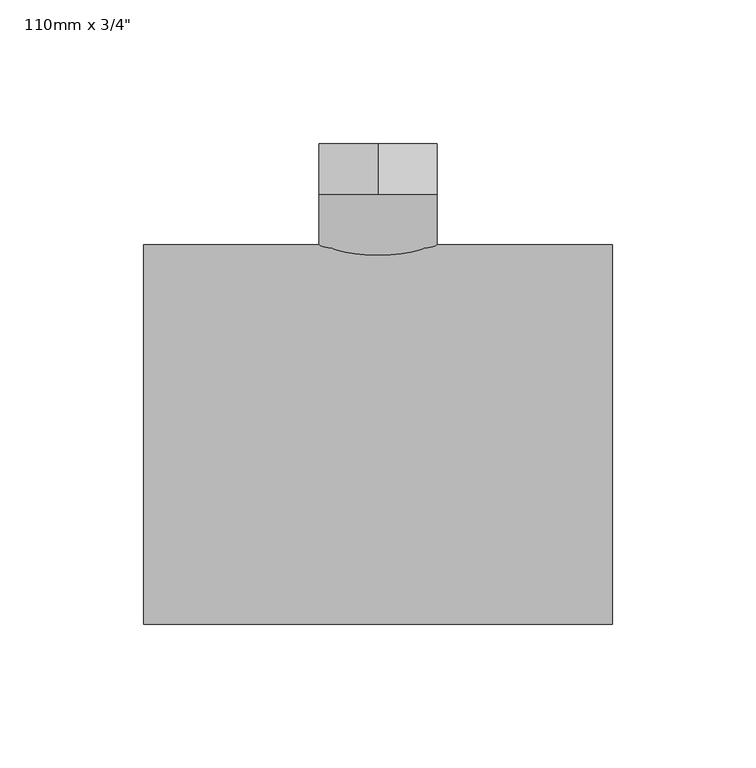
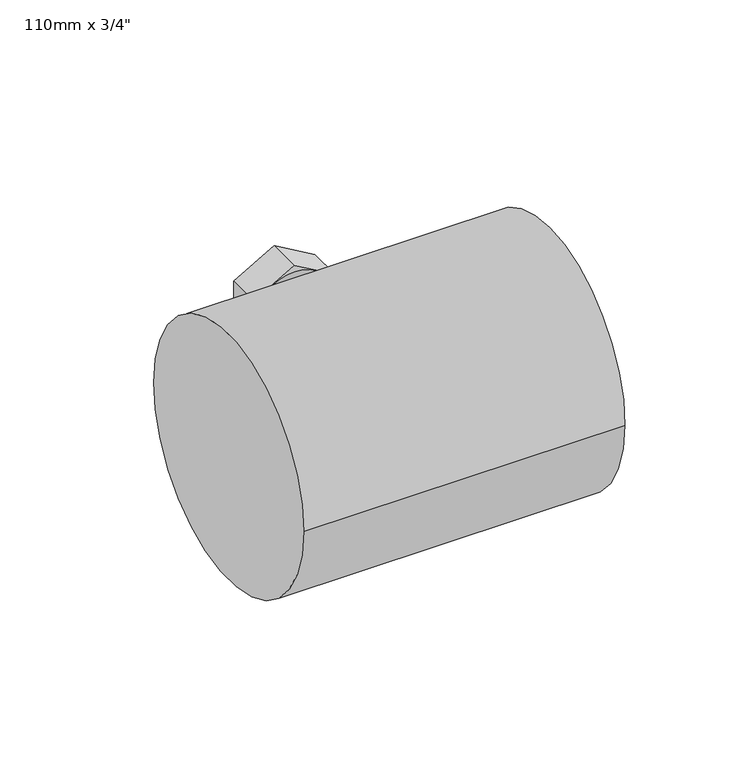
"""IFC4 building model written with IfcOpenShell, lengths in millimetres: pipe fitting geometry."""

import ifcopenshell
import ifcopenshell.guid

model = None  # the IFC model being written
_history = None  # IfcOwnerHistory: only IFC2X3 demands one
_inside = {}  # id of a spatial element -> (the spatial element, [elements in it])
_under = {}  # id of a project, library or spatial element -> (it, [spatial elements below it])
_declared = {}  # id of a project -> (the project, [libraries it declares])
_typed = {}  # id of a type object -> (the type object, [elements of that type])
_made_of = {}  # id of a material, layer set ... -> (it, [elements and type objects made of it])


def new_model(schema):
    """Start an empty IFC model of exactly this schema.

    Asked for "IFC4X3", IfcOpenShell would pick the latest addendum, in which some entities
    have other attributes; the version numbers below select the first issue.
    IFC2X3 requires an IfcOwnerHistory on every rooted entity: one is made here for all.
    """
    global model, _history
    if schema == "IFC4X3":
        model = ifcopenshell.file(schema_version=(4, 3, 0, 0))
    else:
        model = ifcopenshell.file(schema=schema)
    _inside.clear()
    _under.clear()
    _declared.clear()
    _typed.clear()
    _made_of.clear()
    _history = None
    if model.schema == "IFC2X3":
        org = make("IfcOrganization", Name="unknown")
        user = make(
            "IfcPersonAndOrganization",
            ThePerson=make("IfcPerson", FamilyName="unknown"),
            TheOrganization=org,
        )
        app = make(
            "IfcApplication",
            ApplicationDeveloper=org,
            Version="unknown",
            ApplicationFullName="unknown",
            ApplicationIdentifier="unknown",
        )
        _history = make(
            "IfcOwnerHistory",
            OwningUser=user,
            OwningApplication=app,
            ChangeAction="ADDED",
            CreationDate=0,
        )
    return model


def make(cls, **values):
    """One entity of the class cls with the attributes given. An attribute that is None is left unset."""
    return model.create_entity(
        cls, **{name: value for name, value in values.items() if value is not None}
    )


def rooted(cls, **values):
    """An entity with a GlobalId (a new one), such as an element, a storey or a relation."""
    return make(cls, GlobalId=ifcopenshell.guid.new(), OwnerHistory=_history, **values)


def si_unit(unit_type, name, prefix=None):
    """IfcSIUnit, for example si_unit("LENGTHUNIT", "METRE", prefix="MILLI")."""
    return make("IfcSIUnit", UnitType=unit_type, Prefix=prefix, Name=name)


def assignment(units):
    """IfcUnitAssignment: the units of a project."""
    return None if units is None else make("IfcUnitAssignment", Units=units)


def point(xyz):
    """IfcCartesianPoint."""
    return None if xyz is None else make("IfcCartesianPoint", Coordinates=xyz)


def direction(xyz):
    """IfcDirection."""
    return None if xyz is None else make("IfcDirection", DirectionRatios=xyz)


def frame(location, z_axis=None, x_axis=None):
    """IfcAxis2Placement3D, a coordinate frame: its origin and axes. An axis left out is left unset."""
    return make(
        "IfcAxis2Placement3D",
        Location=point(location),
        Axis=direction(z_axis),
        RefDirection=direction(x_axis),
    )


def frame_2d(location, x_axis=None):
    """IfcAxis2Placement2D, a coordinate frame in the plane: its origin and x axis."""
    return make(
        "IfcAxis2Placement2D", Location=point(location), RefDirection=direction(x_axis)
    )


def origin():
    """The frame at (0, 0, 0) with its axes left unset."""
    return frame((0.0, 0.0, 0.0))


def origin_2d():
    """The frame at (0, 0) in the plane with its x axis left unset."""
    return frame_2d((0.0, 0.0))


def place(relative_to, where):
    """IfcLocalPlacement: puts the frame where relative to a parent placement (None: the world)."""
    return make(
        "IfcLocalPlacement", PlacementRelTo=relative_to, RelativePlacement=where
    )


def context(
    kind, dimensions, precision=None, world=None, true_north=None, identifier=None
):
    """IfcGeometricRepresentationContext, for example the 3D "Model" context."""
    return make(
        "IfcGeometricRepresentationContext",
        ContextIdentifier=identifier,
        ContextType=kind,
        CoordinateSpaceDimension=dimensions,
        Precision=precision,
        WorldCoordinateSystem=world,
        TrueNorth=true_north,
    )


def project(units=None, contexts=None):
    """IfcProject with its units and contexts."""
    return rooted(
        "IfcProject",
        Name="project",
        RepresentationContexts=contexts,
        UnitsInContext=assignment(units),
    )


def spatial(cls, under=None, at=None, **own):
    """A site, building, storey or space (cls), placed at a placement, below another one or the project."""
    s = rooted(cls, ObjectPlacement=at, **own)
    if under is not None:
        _under.setdefault(under.id(), (under, []))[1].append(s)
    return s


def polyline(points):
    """IfcPolyline through the points."""
    return make("IfcPolyline", Points=[point(p) for p in points])


def circle_curve(where, radius):
    """IfcCircle in the frame where."""
    return make("IfcCircle", Position=where, Radius=radius)


def trimmed(basis, trim1, trim2, sense, master):
    """IfcTrimmedCurve: the piece of a basis curve between two trims."""
    return make(
        "IfcTrimmedCurve",
        BasisCurve=basis,
        Trim1=trim1,
        Trim2=trim2,
        SenseAgreement=sense,
        MasterRepresentation=master,
    )


def segment(curve, same_sense, transition):
    """IfcCompositeCurveSegment."""
    return make(
        "IfcCompositeCurveSegment",
        Transition=transition,
        SameSense=same_sense,
        ParentCurve=curve,
    )


def composite_curve(segments, self_intersect=None):
    """IfcCompositeCurve: segments joined end to end."""
    return make("IfcCompositeCurve", Segments=segments, SelfIntersect=self_intersect)


def outline(outer, holes=None, kind="AREA"):
    """IfcArbitraryClosedProfileDef: a profile drawn as a closed curve; with holes, ...WithVoids."""
    if holes is None:
        return make("IfcArbitraryClosedProfileDef", ProfileType=kind, OuterCurve=outer)
    return make(
        "IfcArbitraryProfileDefWithVoids",
        ProfileType=kind,
        OuterCurve=outer,
        InnerCurves=holes,
    )


def extrude(swept, where, along, depth):
    """IfcExtrudedAreaSolid: the profile swept, set in the frame where, extruded along a direction by depth."""
    return make(
        "IfcExtrudedAreaSolid",
        SweptArea=swept,
        Position=where,
        ExtrudedDirection=direction(along),
        Depth=depth,
    )


def shape(context_of_items, identifier, shape_type, items):
    """IfcShapeRepresentation: the items that make up one representation, for example the "Body"."""
    return make(
        "IfcShapeRepresentation",
        ContextOfItems=context_of_items,
        RepresentationIdentifier=identifier,
        RepresentationType=shape_type,
        Items=items,
    )


def source(mapping_origin, context_of_items, identifier, shape_type, items):
    """IfcRepresentationMap: a shape defined once, which mapped items show again and again."""
    return make(
        "IfcRepresentationMap",
        MappingOrigin=mapping_origin,
        MappedRepresentation=shape(context_of_items, identifier, shape_type, items),
    )


def transform(
    local_origin,
    x_axis=None,
    y_axis=None,
    z_axis=None,
    scale=None,
    scale2=None,
    scale3=None,
    uniform=True,
):
    """IfcCartesianTransformationOperator3D, or its non-uniform kind. x_axis, y_axis, z_axis: its Axis1, 2, 3."""
    if uniform:
        return make(
            "IfcCartesianTransformationOperator3D",
            Axis1=direction(x_axis),
            Axis2=direction(y_axis),
            LocalOrigin=point(local_origin),
            Scale=scale,
            Axis3=direction(z_axis),
        )
    return make(
        "IfcCartesianTransformationOperator3DnonUniform",
        Axis1=direction(x_axis),
        Axis2=direction(y_axis),
        LocalOrigin=point(local_origin),
        Scale=scale,
        Axis3=direction(z_axis),
        Scale2=scale2,
        Scale3=scale3,
    )


def mapped(mapping_source, mapping_target):
    """IfcMappedItem: shows the shape of a source again, moved by a transform."""
    return make(
        "IfcMappedItem", MappingSource=mapping_source, MappingTarget=mapping_target
    )


def made_of(thing, what):
    """Note that an element or type object is made of a material, layer set ...; save() writes the relation."""
    if what is not None:
        _made_of.setdefault(what.id(), (what, []))[1].append(thing)
    return thing


def element(
    cls,
    number,
    at=None,
    inside=None,
    cuts=None,
    type_object=None,
    material=None,
    context=None,
    identifier="Body",
    shape_type=None,
    held_by="IfcProductDefinitionShape",
    body=None,
    shapes=None,
    **own,
):
    """One element of the class cls, such as IfcWall. Its Tag is "e" and its number.

    at: its placement. inside: the storey or other place that contains it. cuts: it is an
    opening in that element (IfcRelVoidsElement). A single representation is given by context,
    identifier, shape_type and body (its items); several are given by shapes. held_by: the class
    of the entity that holds the representations. save() writes the other relations.
    """
    e = rooted(cls, Tag="e%d" % number, ObjectPlacement=at, **own)
    if body is not None:
        shapes = [shape(context, identifier, shape_type, body)]
    if shapes is not None:
        e.Representation = make(held_by, Representations=shapes)
    if inside is not None:
        _inside.setdefault(inside.id(), (inside, []))[1].append(e)
    if cuts is not None:
        rooted(
            "IfcRelVoidsElement", RelatingBuildingElement=cuts, RelatedOpeningElement=e
        )
    if type_object is not None:
        _typed.setdefault(type_object.id(), (type_object, []))[1].append(e)
    return made_of(e, material)


def aggregate(whole, parts):
    """IfcRelAggregates: a whole, such as a stair, and the parts it consists of."""
    return rooted("IfcRelAggregates", RelatingObject=whole, RelatedObjects=parts)


def save(model, path):
    """Write the relations noted so far, then the file.

    IfcRelAggregates (storeys below a building ...), IfcRelContainedInSpatialStructure (elements
    in a storey), IfcRelDefinesByType, IfcRelAssociatesMaterial and IfcRelDeclares: one each for
    every whole, place, type object, material and project.
    """
    for whole, parts in _under.values():
        aggregate(whole, parts)
    for where, things in _inside.values():
        rooted(
            "IfcRelContainedInSpatialStructure",
            RelatedElements=things,
            RelatingStructure=where,
        )
    for kind, things in _typed.values():
        rooted("IfcRelDefinesByType", RelatedObjects=things, RelatingType=kind)
    for what, things in _made_of.values():
        rooted("IfcRelAssociatesMaterial", RelatedObjects=things, RelatingMaterial=what)
    for by, libraries in _declared.values():
        rooted("IfcRelDeclares", RelatingContext=by, RelatedDefinitions=libraries)
    model.write(path)


def pipe_fitting_d5797600(model_context):
    return source(origin(), model_context, "Body", "SweptSolid", [
        extrude(outline(polyline([(-23.671361, 0.0), (-11.8356805, 20.5), (11.8356805, 20.5), (23.671361, 0.0), (11.8356805, -20.5), (-11.8356805, -20.5), (-23.671361, 0.0)])), frame((0.0, 83.5, 0.0), z_axis=(0.0, 1.0, 0.0), x_axis=(0.0, 0.0, 1.0)), (0.0, 0.0, 1.0), 17.5),
        extrude(outline(composite_curve([segment(trimmed(circle_curve(origin_2d(), 20.5), [point((0.0, -20.5))], [point((0.0, 20.5))], False, "CARTESIAN"), True, "CONTINUOUS"), segment(trimmed(circle_curve(origin_2d(), 20.5), [point((0.0, 20.5))], [point((0.0, -20.5))], False, "CARTESIAN"), True, "CONTINUOUS")], self_intersect=False)), frame((0.0, 0.0, 0.0), z_axis=(0.0, 1.0, 0.0), x_axis=(0.0, 0.0, 1.0)), (0.0, 0.0, 1.0), 83.5),
        extrude(outline(composite_curve([segment(trimmed(circle_curve(origin_2d(), 66.0), [point((-66.0, 0.0))], [point((66.0, 0.0))], False, "CARTESIAN"), True, "CONTINUOUS"), segment(trimmed(circle_curve(origin_2d(), 66.0), [point((66.0, 0.0))], [point((-66.0, 0.0))], False, "CARTESIAN"), True, "CONTINUOUS")], self_intersect=False)), frame((-81.5, 0.0, 0.0), z_axis=(1.0, 0.0, 0.0), x_axis=(0.0, 1.0, 0.0)), (0.0, 0.0, 1.0), 163.0),
    ])


if __name__ == "__main__":
    model = new_model("IFC4")
    model_context = context("Model", 3, world=origin())
    ifc_project = project(units=[si_unit("LENGTHUNIT", "METRE", prefix="MILLI")], contexts=[model_context])
    site = spatial("IfcSite", under=ifc_project)
    building = spatial("IfcBuilding", under=site)
    placement = place(None, origin())
    pipe_fitting_shape = pipe_fitting_d5797600(model_context)
    element("IfcPipeFitting", 1, ObjectType="PipeFitting_HTA_CPVC_AdaptorsForMeasuringAccessories : 110mm x 3/4\"", at=placement, inside=building, context=model_context, shape_type="MappedRepresentation", body=[
        mapped(pipe_fitting_shape, transform((0.0, 0.0, 0.0), x_axis=(1.0, 0.0, 0.0), y_axis=(0.0, 1.0, 0.0), z_axis=(0.0, 0.0, 1.0))),
    ])
    save(model, "model.ifc")
